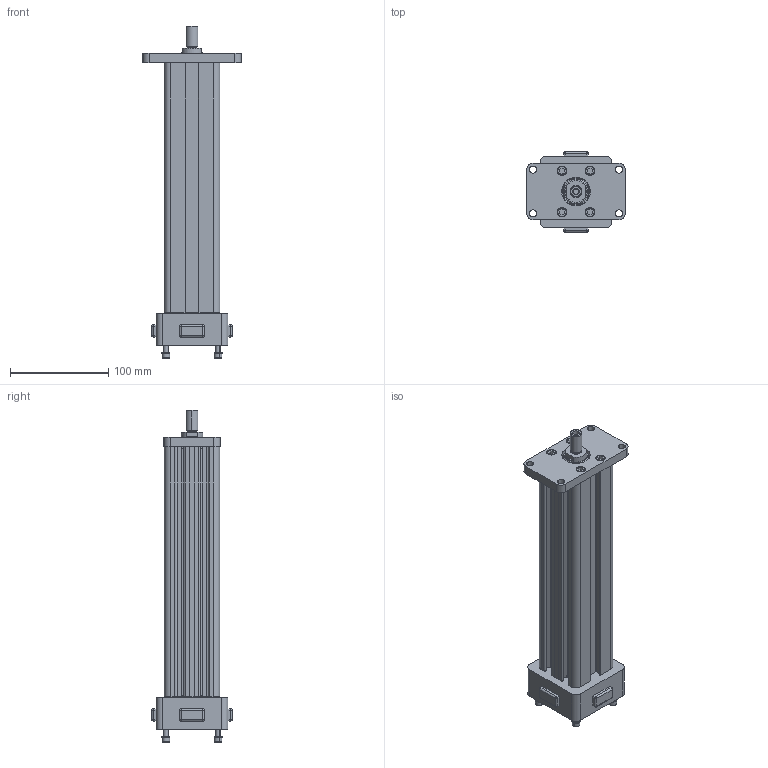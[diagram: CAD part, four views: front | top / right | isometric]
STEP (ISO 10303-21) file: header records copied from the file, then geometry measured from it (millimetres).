
FILE_DESCRIPTION (( 'STEP AP203' ), '1' );
FILE_NAME ('I20-06xx-FA-ISC-xx3.STEP', '2011-03-28T19:44:02', ( 'Exlar' ), ( 'Exlar' ), 'SwSTEP 2.0', 'SolidWorks 2010', '' );
FILE_SCHEMA (( 'CONFIG_CONTROL_DESIGN' ));
Products named in the file (35): 13475; 27128; 27124; 27458; 27570; 27462; 19019; 27949; 13319; 17037; 32869; 14741_3 threaded; 27070; 14739; 14741-7; 12389_2 Impact Cushion; 12392; 27642; 26727; 27126; 28396; 43596; 30538_Default<As Machined>; 27461; 42901; 25935; 20884; 34311; 26696; 43090; 36661; 14152; 26824; I20-06xx-FA-ISC-xx3; 13472_3 thread
Assembly tree (56 placements, depth 3):
  I20-06xx-FA-ISC-xx3
    20884  x8
    27070
    19019
    17037  x4
    25935  x2
    26696
    13319  x4
    27642
    27570
    43090
    14152  x2
    26824
    27462
    32869  x4
    27949
    14739
    36661
    27128  x2
    27124
    27458
    27461
    26727
    14741-7
      12389_2 Impact Cushion  x2
      13472_3 thread
      12392
      14741_3 threaded
      13475  x2
    27126
    42901  x2
    28396
      43596
      30538_Default<As Machined>
    34311
Bounding box: 100.08 x 81.66 x 337.32 mm (x, y, z)
Volume: 639761.6 mm3; surface area: 318572.9 mm2
Topology: 72 solids, 72 shells, 2963 faces, 7616 edges, 4814 vertices
Faces by surface type: cylinder 1429, plane 835, cone 382, torus 242, sphere 48, bspline 27
Entity records: 89864 total; most frequent: CARTESIAN_POINT 31182, ORIENTED_EDGE 11826, DIRECTION 11055, EDGE_CURVE 5913, AXIS2_PLACEMENT_3D 4337, VERTEX_POINT 3807, EDGE_LOOP 2416, LINE 2381
